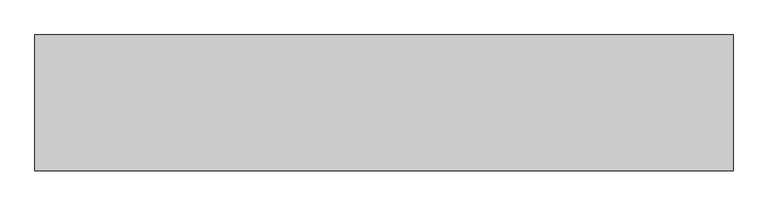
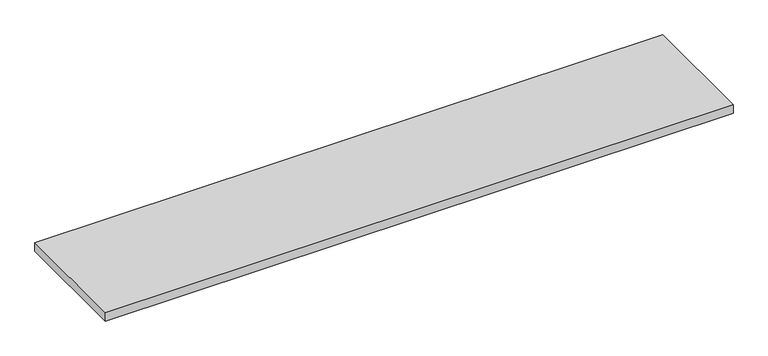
"""IFC4 building model written with IfcOpenShell, lengths in millimetres: furniture geometry."""

from ifc_helpers import new_model, si_unit, frame, origin, place, context, project, spatial, polyline, outline, extrude, source, transform, mapped, element, save


def furniture_fdb7128d(model_context):
    return source(origin(), model_context, "Body", "SweptSolid", [
        extrude(outline(polyline([(914.4, -355.6), (-914.4, -355.6), (-914.4, 0.0), (914.4, 0.0), (914.4, -355.6)])), frame((0.0, 0.0, 1212.85), z_axis=(0.0, 0.0, 1.0), x_axis=(1.0, 0.0, 0.0)), (0.0, 0.0, 1.0), 25.4),
    ])


if __name__ == "__main__":
    model = new_model("IFC4")
    model_context = context("Model", 3, world=origin())
    ifc_project = project(units=[si_unit("LENGTHUNIT", "METRE", prefix="MILLI")], contexts=[model_context])
    site = spatial("IfcSite", under=ifc_project)
    building = spatial("IfcBuilding", under=site)
    placement = place(None, origin())
    furniture_shape = furniture_fdb7128d(model_context)
    element("IfcFurniture", 1, ObjectType="HermanMiller_ActionOffice_A2830_Sq-EdgeTransactionSurfaceRectangularEnd : 14\"D x 72\"W", at=placement, inside=building, context=model_context, shape_type="MappedRepresentation", body=[
        mapped(furniture_shape, transform((0.0, 0.0, 0.0), x_axis=(1.0, 0.0, 0.0), y_axis=(0.0, 1.0, 0.0), z_axis=(0.0, 0.0, 1.0))),
    ])
    save(model, "model.ifc")
